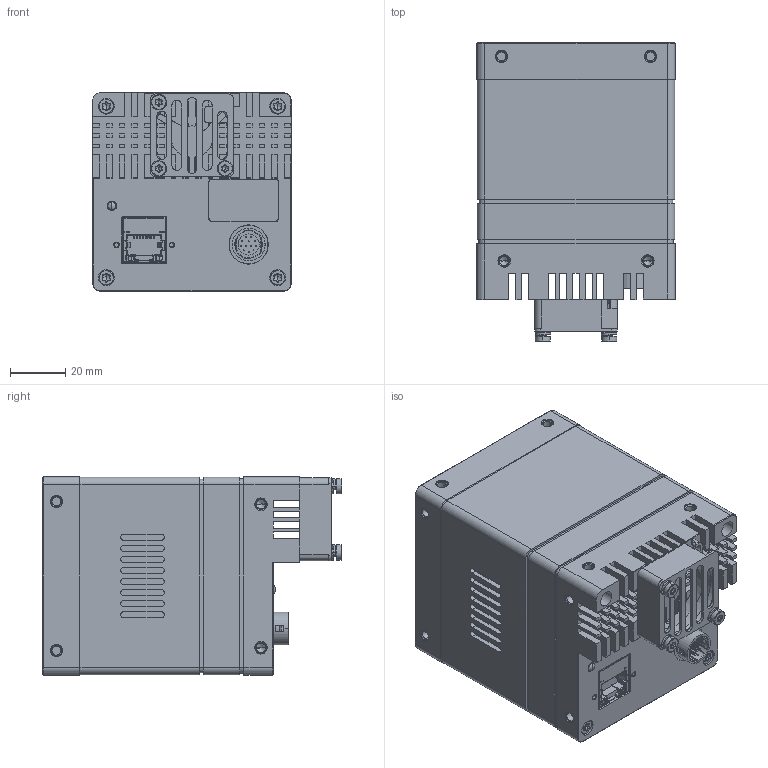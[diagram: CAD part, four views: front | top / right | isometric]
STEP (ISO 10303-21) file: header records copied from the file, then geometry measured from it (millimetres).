
FILE_DESCRIPTION((''),'2;1');
FILE_NAME('DH3-3642-6003_1','2024-01-23T11:49:06',('309376'),(''),'CREO PARAMETRIC BY PTC INC, 2020184','CREO PARAMETRIC BY PTC INC, 2020184','');
FILE_SCHEMA(('CONFIG_CONTROL_DESIGN','SHAPE_APPEARANCE_LAYERS_GROUPS'));
Products named in the file (1): DH3-3642-6003_1
Bounding box: 72 x 108.33 x 72 mm (x, y, z)
Volume: 413571 mm3; surface area: 78796.9 mm2
Topology: 1 solids, 95 shells, 2760 faces, 7534 edges, 4847 vertices
Faces by surface type: plane 1403, cylinder 911, cone 290, bspline 100, torus 50, sphere 6
Entity records: 124200 total; most frequent: CARTESIAN_POINT 26389, DIRECTION 14969, ORIENTED_EDGE 14586, PRESENTATION_STYLE_ASSIGNMENT 8075, STYLED_ITEM 7486, CURVE_STYLE 7421, EDGE_CURVE 7421, AXIS2_PLACEMENT_3D 5332
